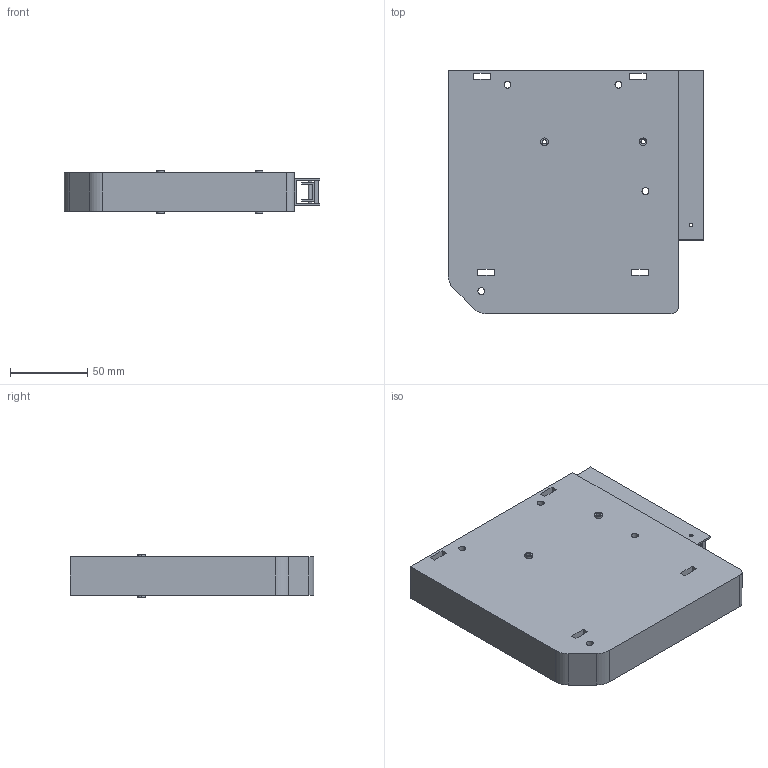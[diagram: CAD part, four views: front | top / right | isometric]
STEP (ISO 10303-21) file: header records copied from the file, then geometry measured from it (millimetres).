
FILE_DESCRIPTION (( 'STEP AP203' ), '1' );
FILE_NAME ('SQ00AL02A.STEP', '2020-02-12T07:26:43', ( 'Windows 蚚誧' ), ( '' ), 'SwSTEP 2.0', 'SolidWorks 2012', '' );
FILE_SCHEMA (( 'CONFIG_CONTROL_DESIGN' ));
Length unit declared in the file: millimetre
Products named in the file (1): SQ00AL02A
Bounding box: 165.89 x 158.2 x 28 mm (x, y, z)
Volume: 590619.6 mm3; surface area: 77005.3 mm2
Topology: 1 solids, 1 shells, 96 faces, 268 edges, 176 vertices
Faces by surface type: plane 54, cylinder 42
Entity records: 3249 total; most frequent: DIRECTION 546, CARTESIAN_POINT 541, ORIENTED_EDGE 536, EDGE_CURVE 268, LINE 184, VECTOR 184, AXIS2_PLACEMENT_3D 181, VERTEX_POINT 176
